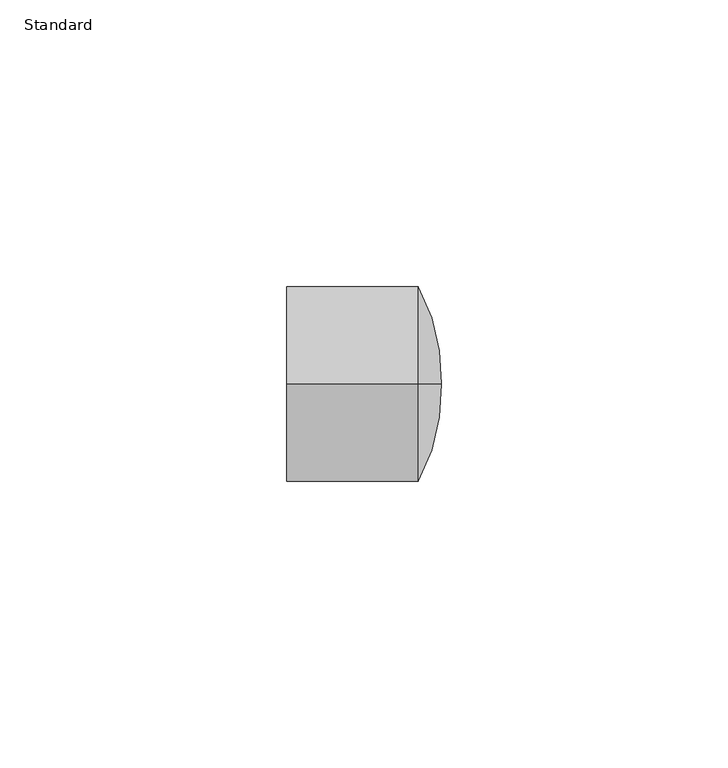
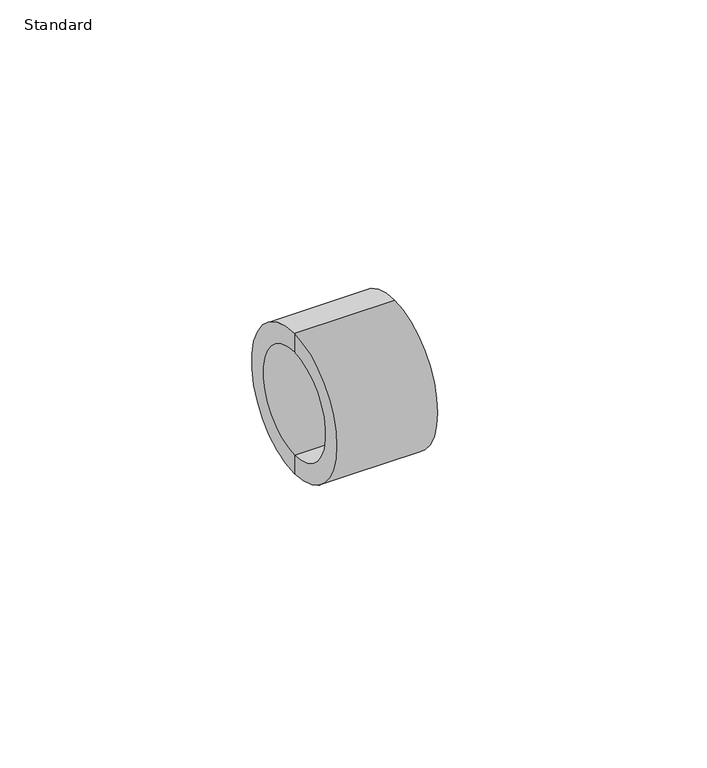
"""IFC4 building model written with IfcOpenShell, lengths in millimetres: pipe fitting geometry, Durapipe_PipeFitting_PVC_Cap : Standard."""

from ifc_helpers import new_model, si_unit, point, frame, origin, place, context, project, spatial, polyline, circle_curve, ellipse_curve, trimmed, source, transform, mapped, element, save
from ifc_brep_helpers import plane_surface, cylinder_surface, revolved_surface, advanced_brep


def standard_5340aa7b(model_context):
    return source(origin(), model_context, "Body", "AdvancedBrep", [
        advanced_brep(
        [(0.0, 0.0, 0.0), (0.0, 0.0, 12.5), (0.0, 0.0, -12.5), (4.0, 0.0, -17.0), (4.0, 0.0, 17.0), (8.0, 0.0, 0.0), (-19.0, 0.0, -17.0), (-19.0, 0.0, 17.0), (-19.0, 0.0, -12.5), (-19.0, 0.0, 12.5)],
        [
            (0, 1),
            (1, 2, circle_curve(frame((0.0, 0.0, 0.0), z_axis=(-1.0, 0.0, 0.0), x_axis=(0.0, 0.0, 1.0)), 12.5)),
            (2, 0),
            (2, 1, circle_curve(frame((0.0, 0.0, 0.0), z_axis=(-1.0, 0.0, 0.0), x_axis=(0.0, 0.0, 1.0)), 12.5)),
            (3, 4, circle_curve(frame((4.0, 0.0, 0.0), z_axis=(1.0, 0.0, 0.0), x_axis=(0.0, 0.0, 1.0)), 17.0)),
            (4, 5, circle_curve(frame((-25.3461859, 0.0, 1.1244268), z_axis=(0.0, 1.0, 0.0), x_axis=(1.0, 0.0, 0.0)), 33.3651383)),
            (5, 3, circle_curve(frame((-25.3461859, 0.0, -1.1244268), z_axis=(0.0, 1.0, 0.0), x_axis=(1.0, 0.0, 0.0)), 33.3651383)),
            (4, 3, circle_curve(frame((4.0, 0.0, 0.0), z_axis=(1.0, 0.0, 0.0), x_axis=(0.0, 0.0, 1.0)), 17.0)),
            (6, 7, circle_curve(frame((-19.0, 0.0, 0.0), z_axis=(1.0, 0.0, 0.0), x_axis=(0.0, 0.0, 1.0)), 17.0)),
            (7, 4),
            (3, 6),
            (7, 6, circle_curve(frame((-19.0, 0.0, 0.0), z_axis=(1.0, 0.0, 0.0), x_axis=(0.0, 0.0, 1.0)), 17.0)),
            (8, 9, circle_curve(frame((-19.0, 0.0, 0.0), z_axis=(1.0, 0.0, 0.0), x_axis=(0.0, 0.0, 1.0)), 12.5)),
            (9, 7),
            (6, 8),
            (9, 8, circle_curve(frame((-19.0, 0.0, 0.0), z_axis=(1.0, 0.0, 0.0), x_axis=(0.0, 0.0, 1.0)), 12.5)),
            (1, 9),
            (8, 2),
        ],
        [
            plane_surface(frame((0.0, 0.0, 0.0), z_axis=(-1.0, 0.0, 0.0), x_axis=(0.0, 0.0, 1.0))),
            revolved_surface(trimmed(ellipse_curve(frame((-25.3461859, 0.0, 1.1244268), z_axis=(0.0, -1.0, 0.0), x_axis=(1.0, 0.0, 0.0)), 33.3651383, 33.3651383), [point((8.0, 0.0, 0.0))], [point((4.0, 0.0, 17.0))], True, "CARTESIAN"), (-1518.1299635, 0.0, 0.0), (-1.0, 0.0, 0.0)),
            cylinder_surface(frame((-1518.1299635, 0.0, 0.0), z_axis=(-1.0, 0.0, 0.0), x_axis=(0.0, 0.0, 1.0)), 17.0),
            plane_surface(frame((-19.0, 0.0, 0.0), z_axis=(-1.0, 0.0, 0.0), x_axis=(0.0, 0.0, 1.0))),
            revolved_surface(polyline([(-19.0, 0.0, 12.5), (0.0, 0.0, 12.5)]), (-1518.1299635, 0.0, 0.0), (-1.0, 0.0, 0.0)),
        ],
        [
            (0, [[1, 2, 3]]),
            (0, [[-3, 4, -1]]),
            (1, [[5, 6, 7]]),
            (1, [[8, -7, -6]]),
            (2, [[9, 10, -5, 11]]),
            (2, [[12, -11, -8, -10]]),
            (3, [[13, 14, -9, 15]]),
            (3, [[16, -15, -12, -14]]),
            (4, [[-2, 17, -13, 18]]),
            (4, [[-4, -18, -16, -17]]),
        ],
    ),
    ])


if __name__ == "__main__":
    model = new_model("IFC4")
    model_context = context("Model", 3, world=origin())
    ifc_project = project(units=[si_unit("LENGTHUNIT", "METRE", prefix="MILLI")], contexts=[model_context])
    site = spatial("IfcSite", under=ifc_project)
    building = spatial("IfcBuilding", under=site)
    placement = place(None, origin())
    standard_shape = standard_5340aa7b(model_context)
    element("IfcPipeFitting", 1, ObjectType="Durapipe_PipeFitting_PVC_Cap : Standard", at=placement, inside=building, context=model_context, shape_type="MappedRepresentation", body=[
        mapped(standard_shape, transform((0.0, 0.0, 0.0), x_axis=(1.0, 0.0, 0.0), y_axis=(0.0, 1.0, 0.0), z_axis=(0.0, 0.0, 1.0))),
    ])
    save(model, "model.ifc")
